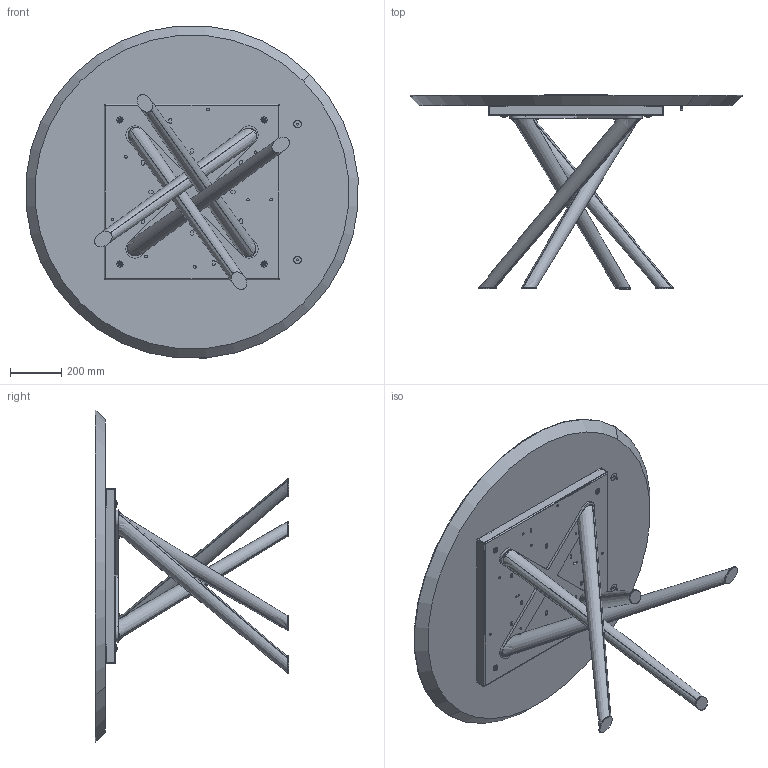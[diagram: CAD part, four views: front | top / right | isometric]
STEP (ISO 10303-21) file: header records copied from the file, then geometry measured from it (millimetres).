
FILE_DESCRIPTION (( 'STEP AP203' ), '1' );
FILE_NAME ('BA05W.STEP', '2024-08-08T06:41:27', ( '' ), ( '' ), 'SwSTEP 2.0', 'SolidWorks 2022', '' );
FILE_SCHEMA (( 'CONFIG_CONTROL_DESIGN' ));
Length unit declared in the file: millimetre
Products named in the file (15): 434070-00-PIEDINO TPV GOMMA NERO D. 30x8max18; TTAV0801-02-TELAIO UNIVERSALE TONDO-VASSOIO; BA05W; Parte5^BAB000000-00-BALY BASE GREZZA; TTAV0801-02-TELAIO UNIVERSALE TONDO; TTAV0801 TELAIO UNIVERSALE TONDO-PIASTRINA; rondella M8_8X24; BAB000000-00-BALY BASE GREZZA; BAB000000_01-00-Croce Superiore baly; BAB000000_02-00-basamento pali conificati; COLLO TELAIO UNIVERSALE TTAV0801 CON FERRAMENTA_MTG TOP LEGNO-MARMO-KING; M8xXXmm_M8x55mm; M8xXXmm_M8x20mm; rondella M8_8X16; W1XCMXX-00-Piani Rotondi legno_D.1300
Assembly tree (38 placements, depth 4):
  BA05W
    W1XCMXX-00-Piani Rotondi legno_D.1300
    BAB000000-00-BALY BASE GREZZA
      BAB000000_01-00-Croce Superiore baly
      BAB000000_02-00-basamento pali conificati
      Parte5^BAB000000-00-BALY BASE GREZZA
    COLLO TELAIO UNIVERSALE TTAV0801 CON FERRAMENTA_MTG TOP LEGNO-MARMO-KING
      TTAV0801-02-TELAIO UNIVERSALE TONDO
        TTAV0801-02-TELAIO UNIVERSALE TONDO-VASSOIO
        TTAV0801 TELAIO UNIVERSALE TONDO-PIASTRINA  x4
      rondella M8_8X24  x4
      M8xXXmm_M8x55mm  x4
    434070-00-PIEDINO TPV GOMMA NERO D. 30x8max18  x2
    M8xXXmm_M8x20mm  x8
    rondella M8_8X16  x8
Bounding box: 1295.05 x 755 x 1295.05 mm (x, y, z)
Volume: 55053303.5 mm3; surface area: 5559166.6 mm2
Topology: 43 solids, 43 shells, 1103 faces, 2645 edges, 1612 vertices
Faces by surface type: plane 446, cylinder 339, cone 158, torus 152, bspline 8
Entity records: 19283 total; most frequent: CARTESIAN_POINT 4476, DIRECTION 2712, ORIENTED_EDGE 2560, EDGE_CURVE 1280, AXIS2_PLACEMENT_3D 994, VERTEX_POINT 818, LINE 724, VECTOR 724
